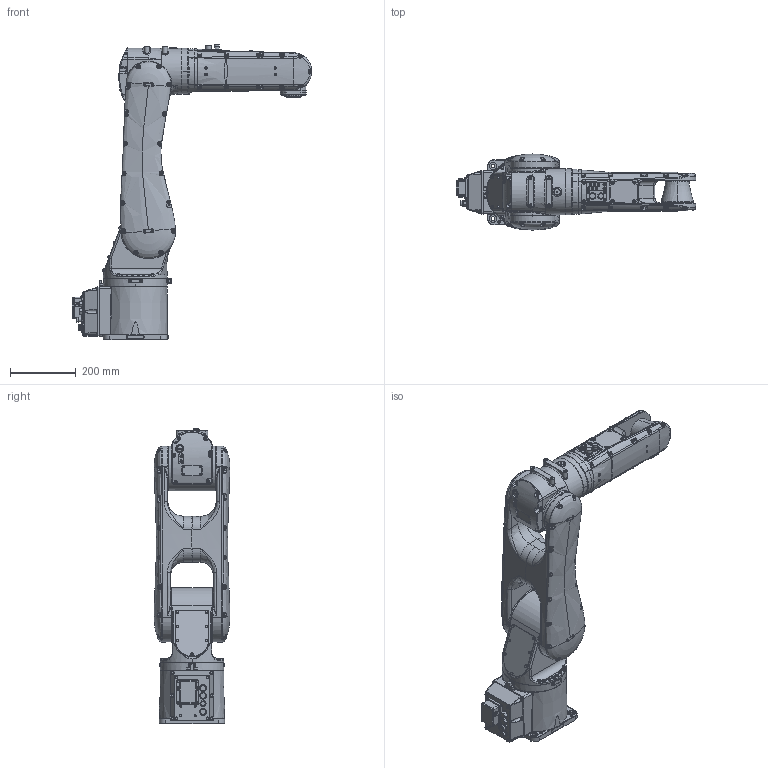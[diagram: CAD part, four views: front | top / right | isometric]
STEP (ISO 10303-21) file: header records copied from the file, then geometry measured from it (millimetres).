
FILE_DESCRIPTION((''),'2;1');
FILE_NAME('ASSY_VIEW_YR-N1-06VX7-A00_ASM','2024-10-11T14:51:31',('mttm21'),('YASKAWA ELECTRIC CORCORATION'),'CREO PARAMETRIC BY PTC INC, 2021072','CREO PARAMETRIC BY PTC INC, 2021072','');
FILE_SCHEMA(('CONFIG_CONTROL_DESIGN'));
Length unit declared in the file: millimetre
Products named in the file (8): BASE_VIEW_YR-N1-06VX7-A00; S_VIEW_YR-N1-06VX7-A00; L_VIEW_YR-N1-06VX7-A00; U_VIEW_YR-N1-06VX7-A00; R_VIEW_YR-N1-06VX7-A00; B_VIEW_YR-N1-06VX7-A00; T_VIEW_YR-N1-06VX7-A00; ASSY_VIEW_YR-N1-06VX7-A00_ASM
Assembly tree (7 placements, depth 2):
  ASSY_VIEW_YR-N1-06VX7-A00_ASM
    BASE_VIEW_YR-N1-06VX7-A00
    S_VIEW_YR-N1-06VX7-A00
    L_VIEW_YR-N1-06VX7-A00
    U_VIEW_YR-N1-06VX7-A00
    R_VIEW_YR-N1-06VX7-A00
    B_VIEW_YR-N1-06VX7-A00
    T_VIEW_YR-N1-06VX7-A00
Bounding box: 727.65 x 230.19 x 896.6 mm (x, y, z)
Volume: 28132110.2 mm3; surface area: 1268552.9 mm2
Topology: 7 solids, 16 shells, 4678 faces, 11781 edges, 7382 vertices
Faces by surface type: plane 1693, cylinder 1417, bspline 828, torus 433, cone 259, sphere 36, extrusion 6, revolution 6
Entity records: 200960 total; most frequent: CARTESIAN_POINT 95116, ORIENTED_EDGE 23350, DIRECTION 20331, EDGE_CURVE 11693, AXIS2_PLACEMENT_3D 7870, VERTEX_POINT 7382, EDGE_LOOP 5069, FACE_OUTER_BOUND 4678
